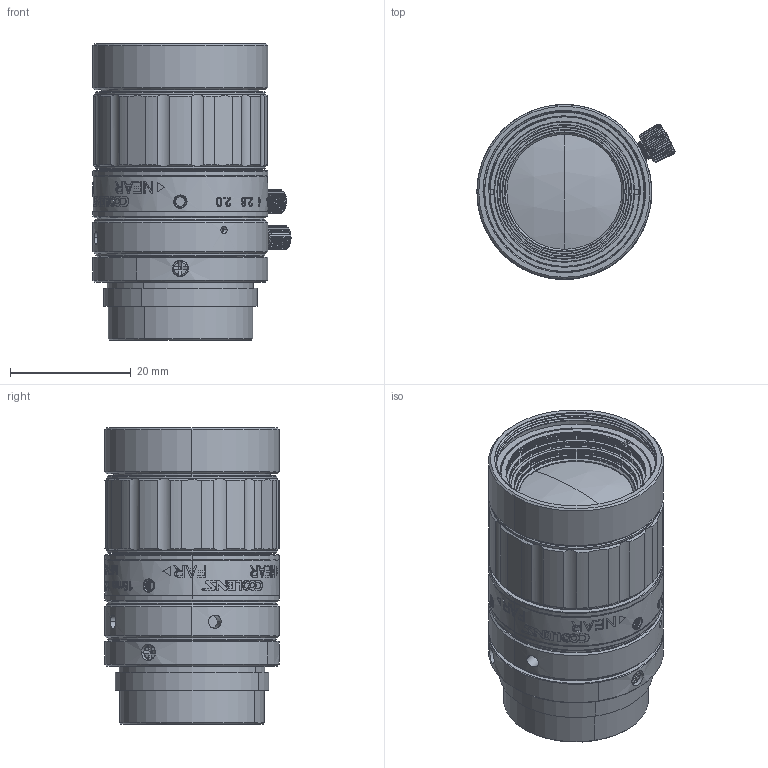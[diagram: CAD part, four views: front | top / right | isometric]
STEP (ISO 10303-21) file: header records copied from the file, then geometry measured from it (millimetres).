
FILE_DESCRIPTION (( 'STEP AP203' ), '1' );
FILE_NAME ('MFA230-S16.STEP', '2020-12-01T07:13:49', ( '' ), ( '' ), 'SwSTEP 2.0', 'SolidWorks 2017', '' );
FILE_SCHEMA (( 'CONFIG_CONTROL_DESIGN' ));
Length unit declared in the file: millimetre
Products named in the file (11): MFA230-S16.sldasm-Part-4; MFA230-S16.sldasm-Part-10; MFA230-S16.sldasm-Part-8; MFA230-S16.sldasm-Part-3; MFA230-S16.sldasm-Part-2; MFA230-S16.sldasm-Part-6; MFA230-S16.sldasm-Part-1; MFA230-S16.sldasm-Part-9; MFA230-S16; MFA230-S16.sldasm-Part-7; MFA230-S16.sldasm-Part-5
Assembly tree (10 placements, depth 2):
  MFA230-S16
    MFA230-S16.sldasm-Part-1
    MFA230-S16.sldasm-Part-2
    MFA230-S16.sldasm-Part-3
    MFA230-S16.sldasm-Part-4
    MFA230-S16.sldasm-Part-5
    MFA230-S16.sldasm-Part-6
    MFA230-S16.sldasm-Part-7
    MFA230-S16.sldasm-Part-8
    MFA230-S16.sldasm-Part-9
    MFA230-S16.sldasm-Part-10
Bounding box: 32.87 x 29 x 49.16 mm (x, y, z)
Volume: 26781.6 mm3; surface area: 14093 mm2
Topology: 10 solids, 15 shells, 5684 faces, 16337 edges, 10801 vertices
Faces by surface type: plane 4615, cylinder 652, cone 219, bspline 180, torus 12, sphere 6
Entity records: 292744 total; most frequent: CARTESIAN_POINT 166341, ORIENTED_EDGE 32674, DIRECTION 17741, EDGE_CURVE 16337, VERTEX_POINT 10801, B_SPLINE_CURVE_WITH_KNOTS 7876, AXIS2_PLACEMENT_3D 6605, EDGE_LOOP 5836
